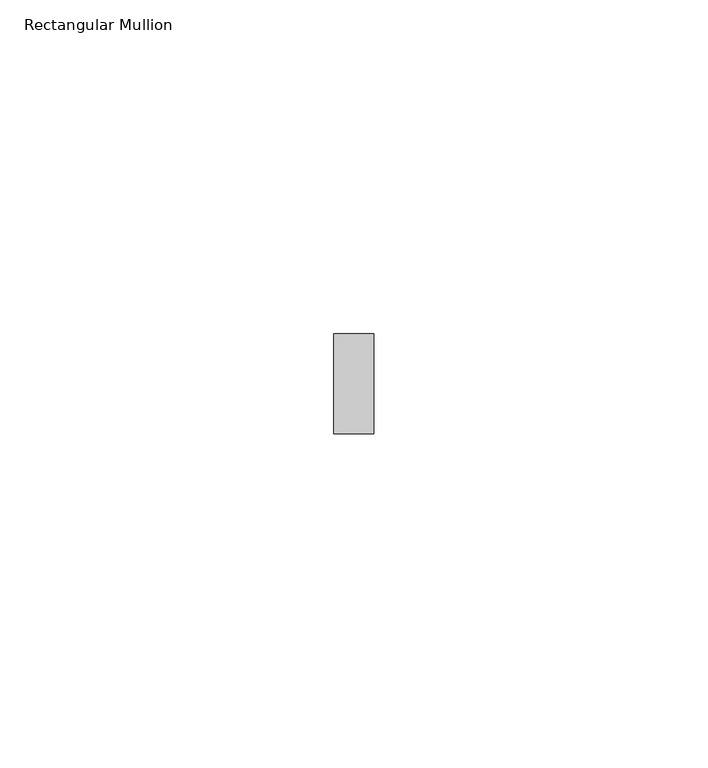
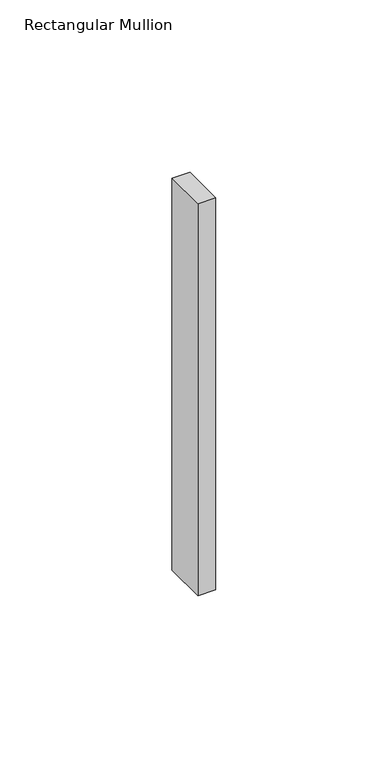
"""IFC4 building model written with IfcOpenShell, lengths in millimetres: member geometry, Rectangular Mullion : ARQ_HERR_15X6mm."""

from ifc_helpers import new_model, si_unit, frame, origin, place, context, project, spatial, polyline, outline, extrude, source, transform, mapped, element, save


def rectangular_mullion_3a2f2e9c(model_context):
    return source(origin(), model_context, "Body", "SweptSolid", [
        extrude(outline(polyline([(3.0, 7.5), (3.0, -7.5), (-3.0, -7.5), (-3.0, 7.5), (3.0, 7.5)])), frame((0.0, 0.0, -138.8888889), z_axis=(0.0, 0.0, 1.0), x_axis=(1.0, 0.0, 0.0)), (0.0, 0.0, 1.0), 138.8888889),
    ])


if __name__ == "__main__":
    model = new_model("IFC4")
    model_context = context("Model", 3, world=origin())
    ifc_project = project(units=[si_unit("LENGTHUNIT", "METRE", prefix="MILLI")], contexts=[model_context])
    site = spatial("IfcSite", under=ifc_project)
    building = spatial("IfcBuilding", under=site)
    placement = place(None, origin())
    rectangular_mullion_shape = rectangular_mullion_3a2f2e9c(model_context)
    element("IfcMember", 1, ObjectType="Rectangular Mullion : ARQ_HERR_15X6mm", at=placement, inside=building, context=model_context, shape_type="MappedRepresentation", body=[
        mapped(rectangular_mullion_shape, transform((0.0, 0.0, 0.0), x_axis=(1.0, 0.0, 0.0), y_axis=(0.0, 1.0, 0.0), z_axis=(0.0, 0.0, 1.0))),
    ])
    save(model, "model.ifc")
